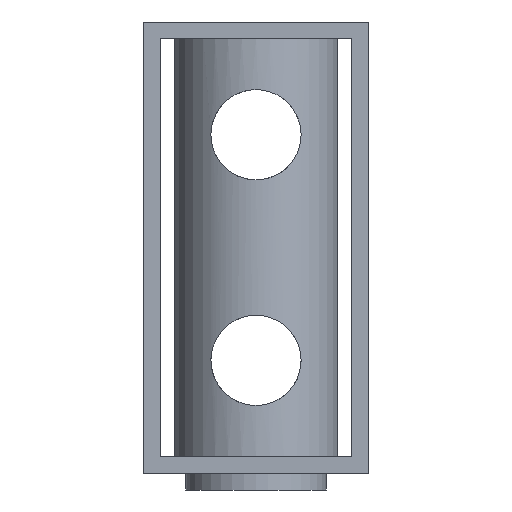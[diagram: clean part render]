
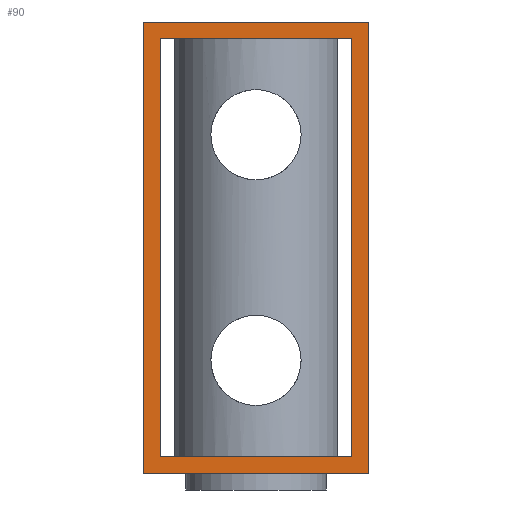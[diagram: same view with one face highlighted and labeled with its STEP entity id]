
A CAD part, front view. The second image highlights one B-rep face of the part: STEP entity #90.
In plain terms, the highlighted planar face has unit normal (0, -1, 0).
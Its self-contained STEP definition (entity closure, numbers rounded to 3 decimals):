
#90 = ADVANCED_FACE( '', ( #206, #207 ), #208, .F. );
#206 = FACE_BOUND( '', #321, .T. );
#207 = FACE_OUTER_BOUND( '', #322, .T. );
#208 = PLANE( '', #323 );
#321 = EDGE_LOOP( '', ( #499, #500, #501, #502 ) );
#322 = EDGE_LOOP( '', ( #503, #504, #505, #506 ) );
#323 = AXIS2_PLACEMENT_3D( '', #507, #508, #509 );
#499 = ORIENTED_EDGE( '', *, *, #567, .T. );
#500 = ORIENTED_EDGE( '', *, *, #533, .T. );
#501 = ORIENTED_EDGE( '', *, *, #580, .T. );
#502 = ORIENTED_EDGE( '', *, *, #597, .T. );
#503 = ORIENTED_EDGE( '', *, *, #540, .F. );
#504 = ORIENTED_EDGE( '', *, *, #588, .F. );
#505 = ORIENTED_EDGE( '', *, *, #591, .F. );
#506 = ORIENTED_EDGE( '', *, *, #571, .F. );
#507 = CARTESIAN_POINT( '', ( 0., -20., 0. ) );
#508 = DIRECTION( '', ( 0., 1., 0. ) );
#509 = DIRECTION( '', ( 0., 0., 1. ) );
#533 = EDGE_CURVE( '', #609, #610, #611, .T. );
#540 = EDGE_CURVE( '', #621, #622, #623, .T. );
#567 = EDGE_CURVE( '', #666, #609, #667, .T. );
#571 = EDGE_CURVE( '', #622, #672, #673, .T. );
#580 = EDGE_CURVE( '', #610, #687, #688, .T. );
#588 = EDGE_CURVE( '', #698, #621, #699, .T. );
#591 = EDGE_CURVE( '', #672, #698, #702, .T. );
#597 = EDGE_CURVE( '', #687, #666, #709, .T. );
#609 = VERTEX_POINT( '', #721 );
#610 = VERTEX_POINT( '', #722 );
#611 = LINE( '', #723, #724 );
#621 = VERTEX_POINT( '', #737 );
#622 = VERTEX_POINT( '', #738 );
#623 = LINE( '', #739, #740 );
#666 = VERTEX_POINT( '', #1068 );
#667 = LINE( '', #1069, #1070 );
#672 = VERTEX_POINT( '', #1076 );
#673 = LINE( '', #1077, #1078 );
#687 = VERTEX_POINT( '', #1369 );
#688 = LINE( '', #1370, #1371 );
#698 = VERTEX_POINT( '', #1382 );
#699 = LINE( '', #1383, #1384 );
#702 = LINE( '', #1388, #1389 );
#709 = LINE( '', #1396, #1397 );
#721 = CARTESIAN_POINT( '', ( -8.5, -20., 28.5 ) );
#722 = CARTESIAN_POINT( '', ( 8.5, -20., 28.5 ) );
#723 = CARTESIAN_POINT( '', ( -8.5, -20., 28.5 ) );
#724 = VECTOR( '', #1412, 1000. );
#737 = CARTESIAN_POINT( '', ( -10., -20., -10. ) );
#738 = CARTESIAN_POINT( '', ( -10., -20., 30. ) );
#739 = CARTESIAN_POINT( '', ( -10., -20., -10. ) );
#740 = VECTOR( '', #1419, 1000. );
#1068 = CARTESIAN_POINT( '', ( -8.5, -20., -8.5 ) );
#1069 = CARTESIAN_POINT( '', ( -8.5, -20., -8.5 ) );
#1070 = VECTOR( '', #1447, 1000. );
#1076 = CARTESIAN_POINT( '', ( 10., -20., 30. ) );
#1077 = CARTESIAN_POINT( '', ( -10., -20., 30. ) );
#1078 = VECTOR( '', #1452, 1000. );
#1369 = CARTESIAN_POINT( '', ( 8.5, -20., -8.5 ) );
#1370 = CARTESIAN_POINT( '', ( 8.5, -20., 28.5 ) );
#1371 = VECTOR( '', #1457, 1000. );
#1382 = CARTESIAN_POINT( '', ( 10., -20., -10. ) );
#1383 = CARTESIAN_POINT( '', ( 10., -20., -10. ) );
#1384 = VECTOR( '', #1465, 1000. );
#1388 = CARTESIAN_POINT( '', ( 10., -20., 30. ) );
#1389 = VECTOR( '', #1467, 1000. );
#1396 = CARTESIAN_POINT( '', ( 8.5, -20., -8.5 ) );
#1397 = VECTOR( '', #1471, 1000. );
#1412 = DIRECTION( '', ( 1., 0., 0. ) );
#1419 = DIRECTION( '', ( 0., 0., 1. ) );
#1447 = DIRECTION( '', ( 0., 0., 1. ) );
#1452 = DIRECTION( '', ( 1., 0., 0. ) );
#1457 = DIRECTION( '', ( 0., 0., -1. ) );
#1465 = DIRECTION( '', ( -1., 0., 0. ) );
#1467 = DIRECTION( '', ( 0., 0., -1. ) );
#1471 = DIRECTION( '', ( -1., 0., 0. ) );
